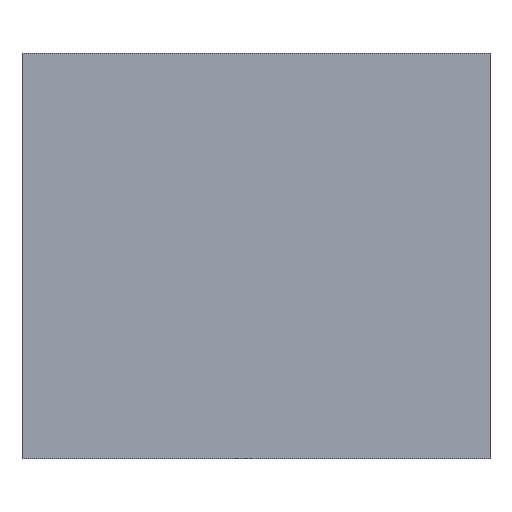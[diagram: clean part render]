
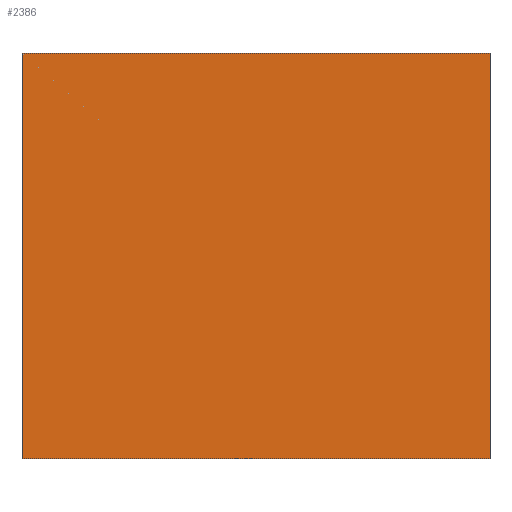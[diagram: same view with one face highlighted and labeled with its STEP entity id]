
A CAD part, front view. The second image highlights one B-rep face of the part: STEP entity #2386.
In plain terms, the highlighted planar face has unit normal (0, -1, 0).
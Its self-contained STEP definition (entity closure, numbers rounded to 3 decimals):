
#308=DIRECTION('',(0.,0.,-1.));
#309=VECTOR('',#308,65.);
#310=CARTESIAN_POINT('',(37.5,-12.,32.5));
#311=LINE('',#310,#309);
#312=DIRECTION('',(-1.,0.,0.));
#313=VECTOR('',#312,75.);
#314=CARTESIAN_POINT('',(37.5,-12.,-32.5));
#315=LINE('',#314,#313);
#316=DIRECTION('',(0.,0.,1.));
#317=VECTOR('',#316,65.);
#318=CARTESIAN_POINT('',(-37.5,-12.,-32.5));
#319=LINE('',#318,#317);
#320=DIRECTION('',(1.,0.,0.));
#321=VECTOR('',#320,75.);
#322=CARTESIAN_POINT('',(-37.5,-12.,32.5));
#323=LINE('',#322,#321);
#1705=CARTESIAN_POINT('',(37.5,-12.,32.5));
#1706=CARTESIAN_POINT('',(37.5,-12.,-32.5));
#1707=VERTEX_POINT('',#1705);
#1708=VERTEX_POINT('',#1706);
#1709=CARTESIAN_POINT('',(-37.5,-12.,-32.5));
#1710=VERTEX_POINT('',#1709);
#1711=CARTESIAN_POINT('',(-37.5,-12.,32.5));
#1712=VERTEX_POINT('',#1711);
#2372=CARTESIAN_POINT('',(0.,-12.,0.));
#2373=DIRECTION('',(0.,1.,0.));
#2374=DIRECTION('',(-1.,0.,0.));
#2375=AXIS2_PLACEMENT_3D('',#2372,#2373,#2374);
#2376=PLANE('',#2375);
#2377=ORIENTED_EDGE('',*,*,#2362,.T.);
#2379=ORIENTED_EDGE('',*,*,#2378,.T.);
#2381=ORIENTED_EDGE('',*,*,#2380,.T.);
#2383=ORIENTED_EDGE('',*,*,#2382,.T.);
#2384=EDGE_LOOP('',(#2377,#2379,#2381,#2383));
#2385=FACE_OUTER_BOUND('',#2384,.F.);
#2386=ADVANCED_FACE('',(#2385),#2376,.F.);
#2362=EDGE_CURVE('',#1707,#1708,#311,.T.);
#2378=EDGE_CURVE('',#1708,#1710,#315,.T.);
#2380=EDGE_CURVE('',#1710,#1712,#319,.T.);
#2382=EDGE_CURVE('',#1712,#1707,#323,.T.);
